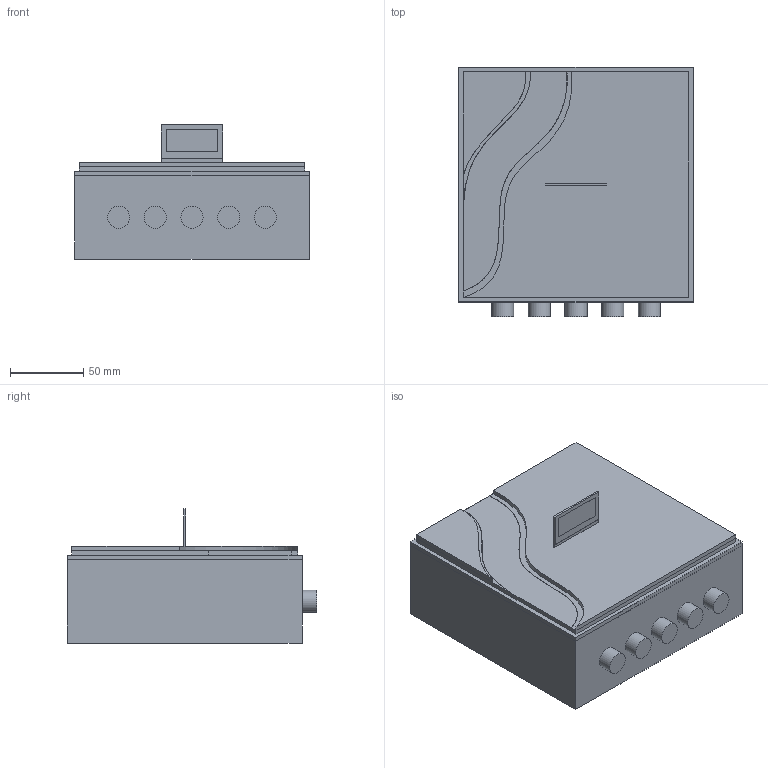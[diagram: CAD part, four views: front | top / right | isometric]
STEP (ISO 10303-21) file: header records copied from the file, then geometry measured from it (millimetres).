
FILE_DESCRIPTION(/* description */ (''),/* implementation_level */ '2;1');
FILE_NAME(/* name */ 'ZenbienceCAD1.step',/* time_stamp */ '2026-02-08T19:17:08+03:00',/* author */ (''),/* organization */ (''),/* preprocessor_version */ 'ST-DEVELOPER v20.1',/* originating_system */ 'Autodesk Translation Framework v14.24.0.0',/* authorisation */ '');
FILE_SCHEMA (('AUTOMOTIVE_DESIGN { 1 0 10303 214 3 1 1 }'));
Products named in the file (6): 2026-02-06-10-17-13-353; 2026-02-07-11-41-41-022; 2026-02-07-11-41-41-023; 2026-02-07-11-41-41-024; 2026-02-07-11-41-41-025; 2026-02-07-11-41-41-026
Assembly tree (5 placements, depth 4):
  2026-02-06-10-17-13-353
    2026-02-07-11-41-41-022
      2026-02-07-11-41-41-023
        2026-02-07-11-41-41-024
        2026-02-07-11-41-41-025
      2026-02-07-11-41-41-026
Bounding box: 160 x 170 x 91.53 mm (x, y, z)
Volume: 391422.1 mm3; surface area: 275634.5 mm2
Topology: 17 solids, 17 shells, 2073 faces, 5613 edges, 3472 vertices
Faces by surface type: plane 1365, cylinder 514, sphere 152, bspline 39, cone 2, torus 1
Full cylindrical faces by diameter (mm): 3 x4, 15 x5
Entity records: 68058 total; most frequent: CARTESIAN_POINT 14062, ORIENTED_EDGE 10922, DIRECTION 10534, EDGE_CURVE 5461, LINE 4346, VECTOR 4346, VERTEX_POINT 3472, AXIS2_PLACEMENT_3D 3094
